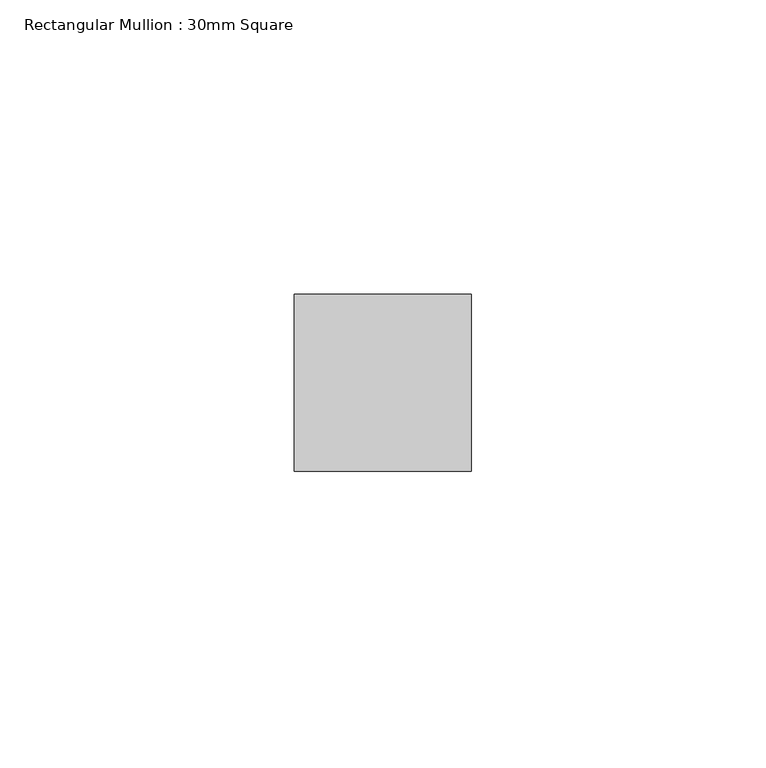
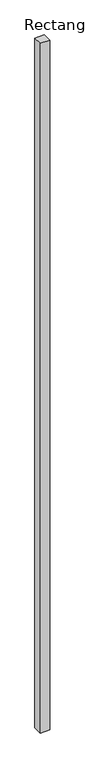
"""IFC4 building model written with IfcOpenShell, lengths in millimetres: member geometry, Rectangular Mullion : 30mm Square."""

from ifc_helpers import new_model, si_unit, frame, origin, place, context, project, spatial, polyline, outline, extrude, source, transform, mapped, element, save


def rectangular_mullion_30mm_square_67cf9652(model_context):
    return source(origin(), model_context, "Body", "SweptSolid", [
        extrude(outline(polyline([(15.0, 15.0), (15.0, -15.0), (-15.0, -15.0), (-15.0, 15.0), (15.0, 15.0)])), frame((0.0, 0.0, -2320.0), z_axis=(0.0, 0.0, 1.0), x_axis=(1.0, 0.0, 0.0)), (0.0, 0.0, 1.0), 2320.0),
    ])


if __name__ == "__main__":
    model = new_model("IFC4")
    model_context = context("Model", 3, world=origin())
    ifc_project = project(units=[si_unit("LENGTHUNIT", "METRE", prefix="MILLI")], contexts=[model_context])
    site = spatial("IfcSite", under=ifc_project)
    building = spatial("IfcBuilding", under=site)
    placement = place(None, origin())
    rectangular_mullion_30mm_square_shape = rectangular_mullion_30mm_square_67cf9652(model_context)
    element("IfcMember", 1, ObjectType="Rectangular Mullion : 30mm Square", at=placement, inside=building, context=model_context, shape_type="MappedRepresentation", body=[
        mapped(rectangular_mullion_30mm_square_shape, transform((0.0, 0.0, 0.0), x_axis=(1.0, 0.0, 0.0), y_axis=(0.0, 1.0, 0.0), z_axis=(0.0, 0.0, 1.0))),
    ])
    save(model, "model.ifc")
